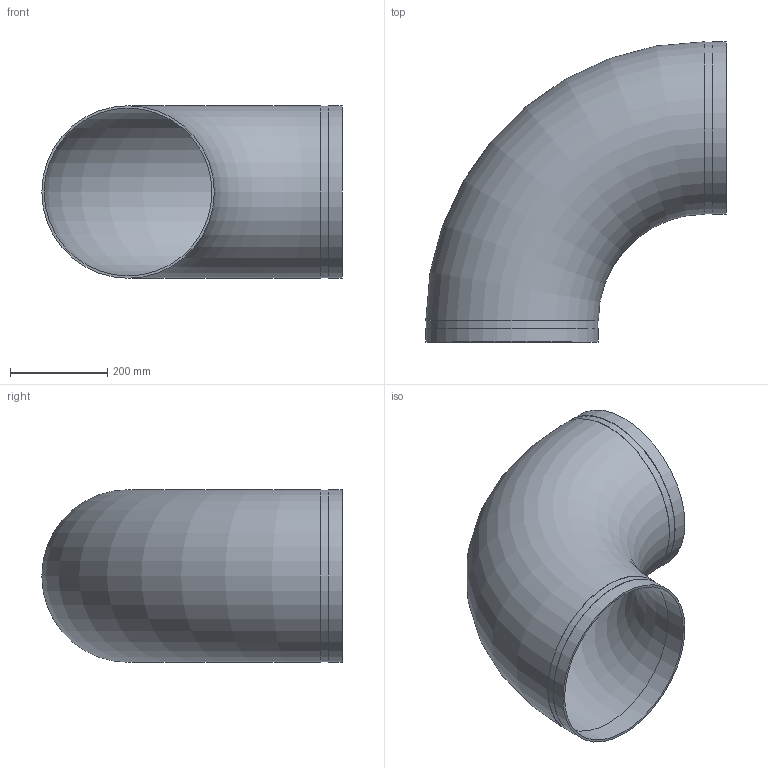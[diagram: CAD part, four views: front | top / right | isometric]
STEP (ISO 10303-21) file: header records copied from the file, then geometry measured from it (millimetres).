
FILE_DESCRIPTION(/* description */ ('VIC 90 DEG ELBOW STYLE 401DX','CAx-IF Rec.Pracs.---Representation and Presentation of Product Manufacturing Information (PMI)---4.0---2014-10-13'),/* implementation_level */ '2;1');
FILE_NAME(/* name */ 'C:\Users\kkamble\AppData\Roaming\Autodesk\ApplicationPlugins\Back Up\Victaulic_SS-StrengThin_Elbow 90 Deg_No 401DX (STG)\Victaulic_SS-StrengThin_Elbow 90 Deg_No 401DX (STG)_14 (350).stp',/* time_stamp */ '2020-08-17T13:28:31+06:00',/* author */ ('cps_temp'),/* organization */ ('Victaulic'),/* preprocessor_version */ 'ST-DEVELOPER v17.2',/* originating_system */ 'Autodesk Inventor 2019',/* authorisation */ '');
FILE_SCHEMA (('AP242_MANAGED_MODEL_BASED_3D_ENGINEERING_MIM_LF { 1 0 10303 442 1 1 4 }'));
Length unit declared in the file: inch
Products named in the file (1): 401DX-14.0
Bounding box: 619.25 x 619.25 x 355.6 mm (x, y, z)
Volume: 3727439.2 mm3; surface area: 1583814 mm2
Topology: 1 solids, 1 shells, 14 faces, 30 edges, 22 vertices
Faces by surface type: plane 6, cylinder 6, torus 2
Full cylindrical faces by diameter (mm): 346.05 x2, 354.33 x2, 355.6 x2
Entity records: 556 total; most frequent: DIRECTION 110, CARTESIAN_POINT 84, ORIENTED_EDGE 60, AXIS2_PLACEMENT_3D 52, EDGE_CURVE 30, CIRCLE 24, VERTEX_POINT 22, EDGE_LOOP 20
